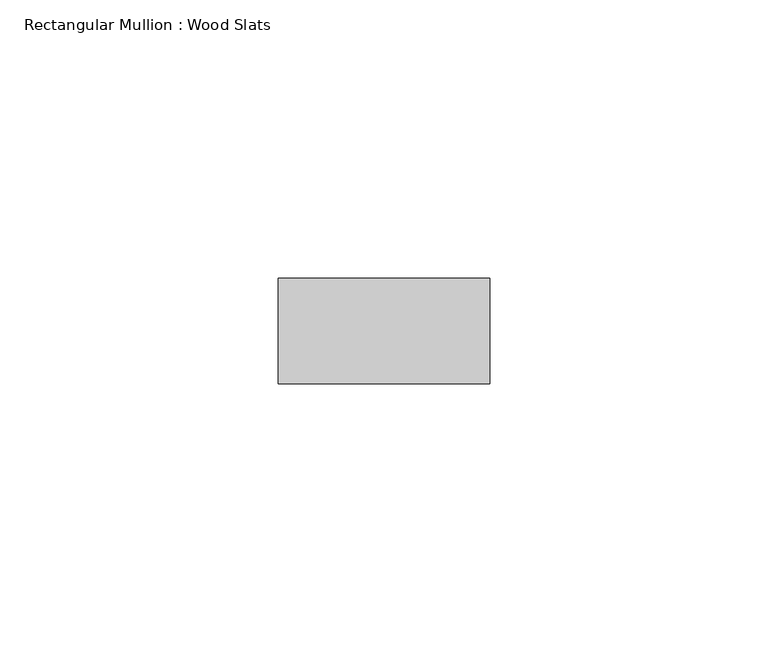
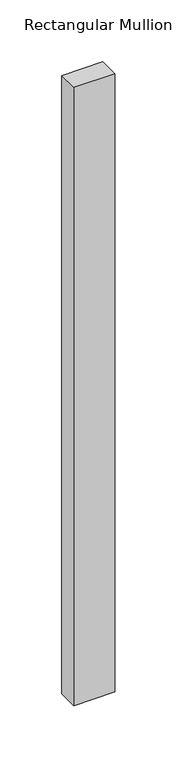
"""IFC4 building model written with IfcOpenShell, lengths in millimetres: member geometry, Rectangular Mullion : Wood Slats."""

from ifc_helpers import new_model, si_unit, frame, origin, place, context, project, spatial, polyline, outline, extrude, source, transform, mapped, element, save


def rectangular_mullion_wood_slats_83d5eb21(model_context):
    return source(origin(), model_context, "Body", "SweptSolid", [
        extrude(outline(polyline([(19.05, 9.525), (19.05, -9.525), (-19.05, -9.525), (-19.05, 9.525), (19.05, 9.525)])), frame((0.0, 0.0, -609.6000003), z_axis=(0.0, 0.0, 1.0), x_axis=(1.0, 0.0, 0.0)), (0.0, 0.0, 1.0), 609.6000003),
    ])


if __name__ == "__main__":
    model = new_model("IFC4")
    model_context = context("Model", 3, world=origin())
    ifc_project = project(units=[si_unit("LENGTHUNIT", "METRE", prefix="MILLI")], contexts=[model_context])
    site = spatial("IfcSite", under=ifc_project)
    building = spatial("IfcBuilding", under=site)
    placement = place(None, origin())
    rectangular_mullion_wood_slats_shape = rectangular_mullion_wood_slats_83d5eb21(model_context)
    element("IfcMember", 1, ObjectType="Rectangular Mullion : Wood Slats", at=placement, inside=building, context=model_context, shape_type="MappedRepresentation", body=[
        mapped(rectangular_mullion_wood_slats_shape, transform((0.0, 0.0, 0.0), x_axis=(1.0, 0.0, 0.0), y_axis=(0.0, 1.0, 0.0), z_axis=(0.0, 0.0, 1.0))),
    ])
    save(model, "model.ifc")
